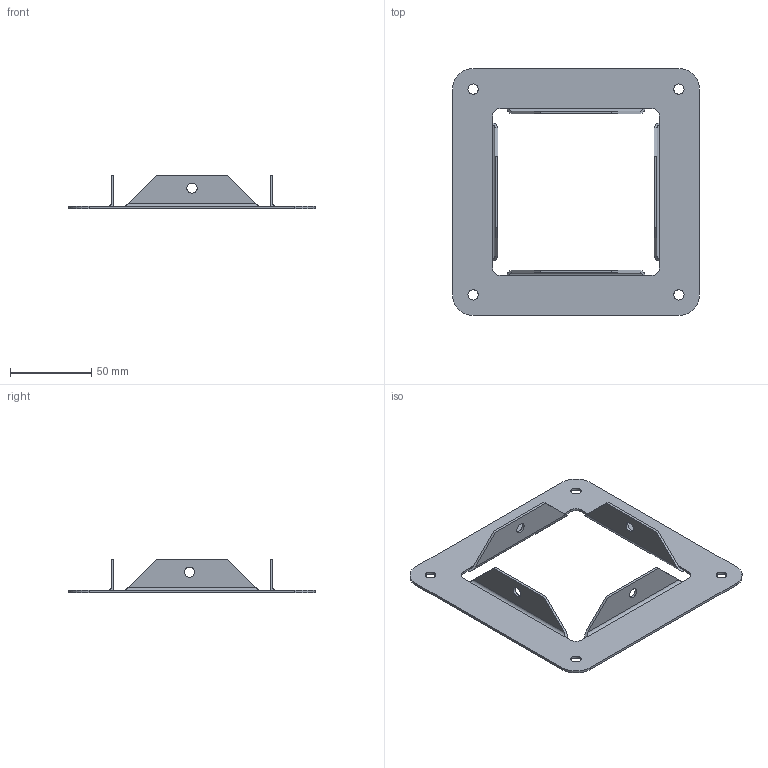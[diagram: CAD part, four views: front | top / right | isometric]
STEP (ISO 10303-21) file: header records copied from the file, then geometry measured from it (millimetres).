
FILE_DESCRIPTION((''),'1');
FILE_NAME('8','2001-04-18T',('jlue'),(''),'PRO/ENGINEER BY PARAMETRIC TECHNOLOGY CORPORATION, 9846','PRO/ENGINEER BY PARAMETRIC TECHNOLOGY CORPORATION, 9846','');
FILE_SCHEMA(('CONFIG_CONTROL_DESIGN'));
Length unit declared in the file: inch
Products named in the file (1): 8
Bounding box: 152.4 x 152.4 x 20.62 mm (x, y, z)
Surface area: 37371.7 mm2 (no closed solid volume)
Topology: 0 solids, 0 shells, 66 faces, 358 edges, 364 vertices
Faces by surface type: plane 34, cylinder 32
Entity records: 1916 total; most frequent: CARTESIAN_POINT 376, COMPOSITE_CURVE_SEGMENT 352, DIRECTION 346, TRIMMED_CURVE 166, VECTOR 118, LINE 118, AXIS2_PLACEMENT_3D 114, CURVE_BOUNDED_SURFACE 66
